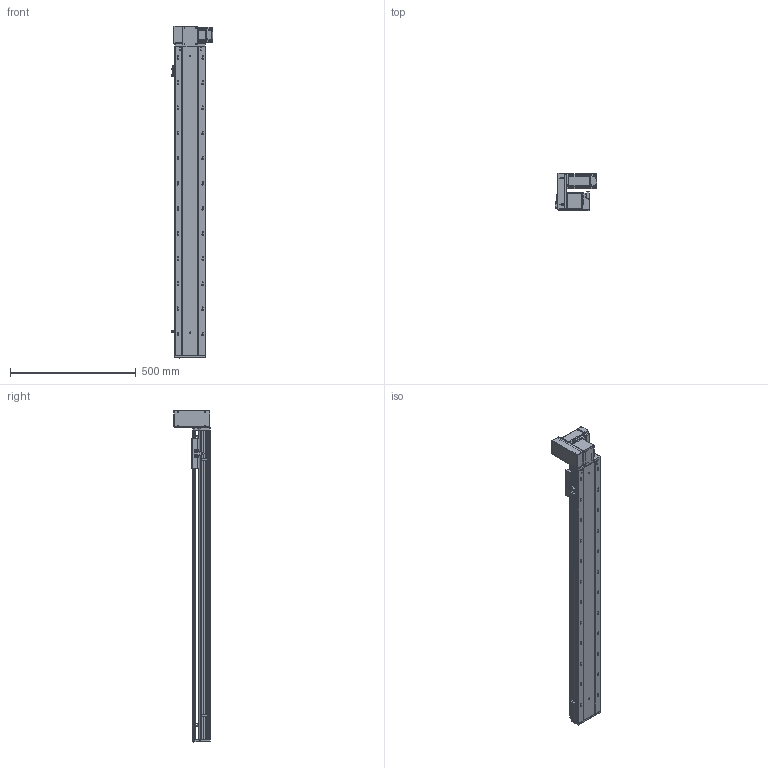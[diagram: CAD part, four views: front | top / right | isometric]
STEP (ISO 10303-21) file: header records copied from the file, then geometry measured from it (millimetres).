
FILE_DESCRIPTION (( 'STEP AP203' ), '1' );
FILE_NAME ('RY120-T-300-UL.SLDASM_1000.step', '2021-03-01T05:36:14', ( '盈信电脑' ), ( '东莞市道滘镇水果街19号' ), 'SwSTEP 2.0', 'SolidWorks 2012', '' );
FILE_SCHEMA (( 'CONFIG_CONTROL_DESIGN' ));
Length unit declared in the file: millimetre
Products named in the file (18): RY120-T蹟翐M4; RY120-T-300-UL.SLDASM_1000; RY120-T翋肮祭謫裔啣; 滅袉蝶18-10; RY120-T主同步轮轴承压盖; RY120-T萇儂欶; 15; RY120-T萇儂假蚾啣; 侂狟400W侜督萇儂; RY120-T翋肮祭盓傅釱; RY120-T肮祭湍揤踡輸1; RY120-T肮祭湍揤踡輸2; RY120外置感应片(140共用）; 覜茼ん672; RY120-T-300-UL倰第菁釱_1000; RY120綴裔啣; RY120-T-300-UL倰第奻裔啣_1000; RY120肮祭湍臏賑輸
Assembly tree (23 placements, depth 3):
  RY120-T-300-UL.SLDASM_1000
    RY120-T-300-UL倰第菁釱_1000
    RY120-T-300-UL倰第奻裔啣_1000
    RY120肮祭湍臏賑輸
    RY120綴裔啣
    覜茼ん672  x3
    RY120外置感应片(140共用）
    RY120-T肮祭湍揤踡輸1
    RY120-T肮祭湍揤踡輸2
    RY120-T翋肮祭盓傅釱
    RY120-T萇儂假蚾啣
    侂狟400W侜督萇儂
      15
    RY120-T主同步轮轴承压盖
    滅袉蝶18-10  x2
    RY120-T萇儂欶
    RY120-T蹟翐M4  x4
    RY120-T翋肮祭謫裔啣
Bounding box: 164.2 x 146 x 1321 mm (x, y, z)
Volume: 3608952.8 mm3; surface area: 1352624 mm2
Topology: 23 solids, 23 shells, 3022 faces, 8320 edges, 5350 vertices
Faces by surface type: plane 1462, cylinder 1212, cone 259, bspline 89
Entity records: 98700 total; most frequent: CARTESIAN_POINT 26410, ORIENTED_EDGE 15064, DIRECTION 13986, EDGE_CURVE 7532, VERTEX_POINT 4937, AXIS2_PLACEMENT_3D 4721, LINE 4544, VECTOR 4544
